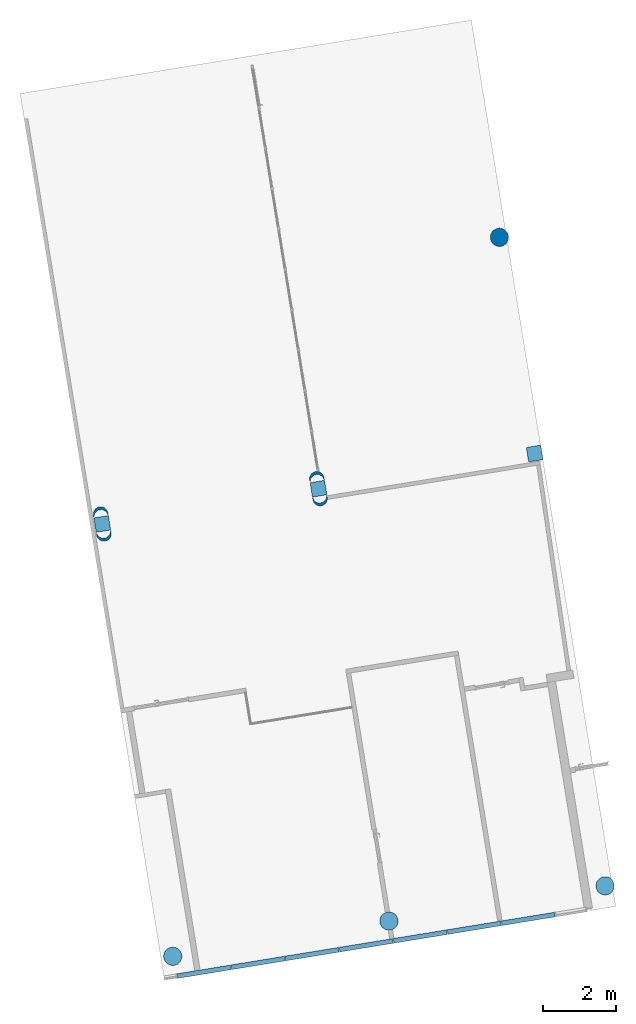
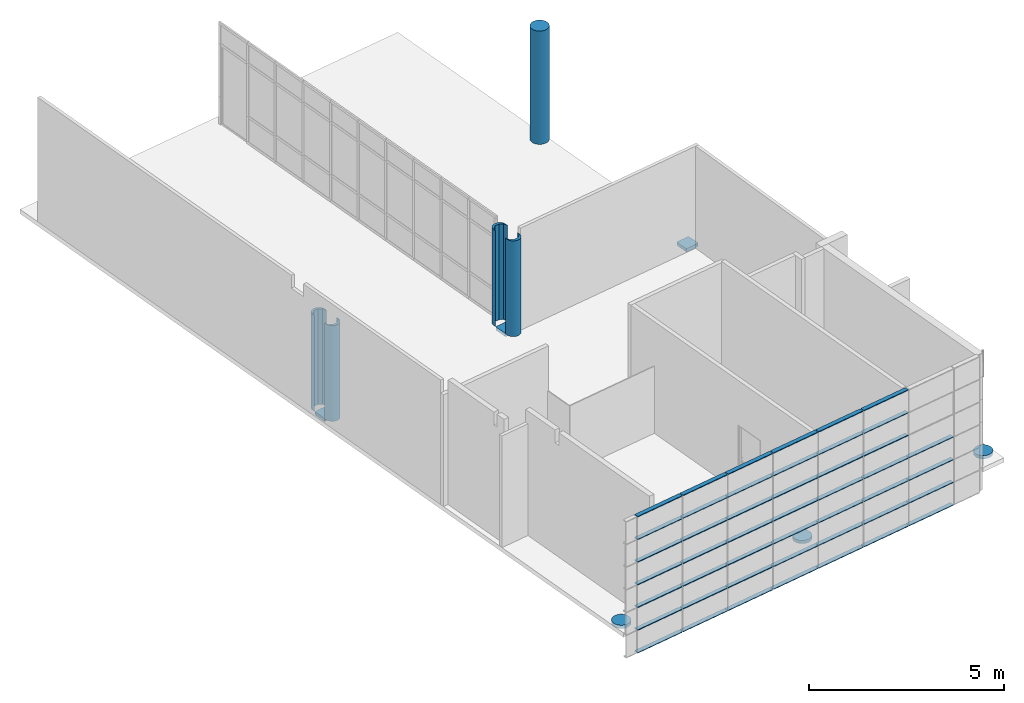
# One storey, part 1 of 18: 46 members, 9 columns, 1 element without a shape of its own.
"""IFC2X3 building model written with IfcOpenShell, lengths in millimetres."""

from ifc_helpers import new_model, entity, si_unit, converted_unit, derived_unit, direction, frame, frame_2d, origin, origin_with_axes, origin_2d_with_axis, place, context, subcontext, project, spatial, polyline, circle_curve, parameter, trimmed, segment, composite_curve, rectangle, circle, outline, extrude, source, transform, mapped, material, type_object, element, aggregate, save


model = new_model("IFC2X3")

# Units and contexts
model_context = context("Model", 3, precision=0.01, world=origin(), true_north=direction((6.12323399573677e-17, 1.0)))
plan_context = context("Plan", 3, precision=1e-05, world=origin_with_axes())
body_context = subcontext(model_context, "Body", "Model", "MODEL_VIEW")
ifc_project = project(units=[converted_unit("PLANEANGLEUNIT", "DEGREE", entity("IfcPositiveLengthMeasure", 0.0174532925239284), si_unit("PLANEANGLEUNIT", "RADIAN"), dimensions=[0, 0, 0, 0, 0, 0, 0]), si_unit("AREAUNIT", "SQUARE_METRE"), si_unit("LENGTHUNIT", "METRE", prefix="MILLI"), si_unit("MASSUNIT", "GRAM", prefix="KILO"), si_unit("POWERUNIT", "WATT"), si_unit("PRESSUREUNIT", "PASCAL", prefix="KILO"), si_unit("FORCEUNIT", "NEWTON", prefix="KILO"), si_unit("ELECTRICVOLTAGEUNIT", "VOLT"), si_unit("ELECTRICCURRENTUNIT", "AMPERE"), si_unit("THERMODYNAMICTEMPERATUREUNIT", "DEGREE_CELSIUS"), si_unit("TIMEUNIT", "SECOND"), si_unit("VOLUMEUNIT", "CUBIC_METRE"), derived_unit("LINEARVELOCITYUNIT", [(si_unit("LENGTHUNIT", "METRE"), 1), (si_unit("TIMEUNIT", "SECOND"), -1)]), derived_unit("VOLUMETRICFLOWRATEUNIT", [(si_unit("VOLUMEUNIT", "CUBIC_METRE"), 1), (si_unit("TIMEUNIT", "SECOND"), -1)]), derived_unit("THERMALTRANSMITTANCEUNIT", [(si_unit("POWERUNIT", "WATT"), 1), (si_unit("THERMODYNAMICTEMPERATUREUNIT", "KELVIN"), -1), (si_unit("AREAUNIT", "SQUARE_METRE"), -1)]), derived_unit("SOUNDPRESSUREUNIT", [(si_unit("PRESSUREUNIT", "PASCAL"), 1)])], contexts=[model_context, plan_context])

# Site, building, storey
site_placement = place(None, frame((-305029.896016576, -232111.759730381, 0.0), z_axis=(0.0, 0.0, 1.0), x_axis=(-0.160806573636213, 0.986985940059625, 0.0)))
site = spatial("IfcSite", under=ifc_project, at=site_placement, Name="Default", CompositionType="ELEMENT")
building_placement = place(site_placement, frame((0.0, 0.0, 0.0), z_axis=(0.0, 0.0, 1.0), x_axis=(1.0, -2.77555756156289e-17, 0.0)))
building = spatial("IfcBuilding", under=site, at=building_placement, Name="br001-a-200-1-0001", CompositionType="ELEMENT")
storey_placement = place(building_placement, frame((0.0, 0.0, 55500.0), z_axis=(0.0, 0.0, 1.0), x_axis=(1.0, -2.77555756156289e-17, 0.0)))
storey = spatial("IfcBuildingStorey", under=building, at=storey_placement, Name="H02-Nivå F-3,5 m", CompositionType="ELEMENT", Elevation=55500.0)

# Columns
ifc_material_1 = material(Name="_NSW Betong")
column_type_1 = type_object("IfcColumnType", Name="NSW Søyle - Betong rund:ø500 mm", PredefinedType="COLUMN", material=ifc_material_1)
shared_shape_1 = source(origin(), body_context, "Body", "SweptSolid", [
    extrude(circle(Radius=249.999999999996, at=frame_2d((4.64188397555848e-14, -3.94377568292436e-13), x_axis=(1.0, 0.0))), frame((0.0, 0.0, 55400.0)), (0.0, 0.0, 1.0), 100.000000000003),
])
for number, where, z_axis, x_axis in (
    (1, (1172678.59858442, -734766.37836702, -55500.0), (0.0, 0.0, 1.0), (1.0, -2.77555756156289e-17, 0.0)),
    (2, (1172678.59858442, -722766.37836702, -55500.0), (0.0, 0.0, 1.0), (1.0, -2.77555756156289e-17, 0.0)),
    (3, (1172678.59858442, -728766.37836702, -55500.0), (0.0, 0.0, 1.0), (1.0, -2.77555756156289e-17, 0.0)),
):
    element("IfcColumn", number, at=place(storey_placement, frame(where, z_axis=z_axis, x_axis=x_axis)), inside=storey, type_object=column_type_1, material=ifc_material_1, Name="NSW Søyle - Betong rund:ø500 mm", ObjectType="NSW Søyle - Betong rund:ø500 mm", context=body_context, shape_type="MappedRepresentation", body=[
        mapped(shared_shape_1, transform((0.0, 0.0, 0.0), scale=1.0)),
    ])
column_type_2 = type_object("IfcColumnType", Name="NSW Søyle - Betong rektangulær:400 x 400 mm", PredefinedType="COLUMN", material=ifc_material_1)
shared_shape_2 = source(origin(), body_context, "Body", "SweptSolid", [
    extrude(outline(polyline([(-7.07106781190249, -275.771644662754), (7.07106781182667, -275.771644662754), (275.771644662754, -7.07106781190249), (275.771644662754, 7.07106781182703), (7.07106781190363, 275.771644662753), (-7.07106781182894, 275.771644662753), (-275.771644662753, 7.07106781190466), (-275.771644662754, -7.07106781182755), (-7.07106781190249, -275.771644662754)])), frame((100.0, -100.0, 55400.0), z_axis=(0.0, 0.0, 1.0), x_axis=(0.707106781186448, 0.707106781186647, 0.0)), (0.0, 0.0, 1.0), 100.000000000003),
])
for number, where, z_axis, x_axis, name in (
    (4, (1184578.59858442, -734666.37836702, -55500.0), (0.0, 0.0, 1.0), (1.0, -2.77555756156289e-17, 0.0), "NSW Søyle - Betong rektangulær:400 x 400 mm"),
    (5, (1184578.59858442, -728666.37836702, -55500.0), (0.0, 0.0, 1.0), (1.0, -2.77555756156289e-17, 0.0), "NSW Søyle - Betong rektangulær:400 x 400 mm"),
    (6, (1184578.59858442, -722666.37836702, -55500.0), (0.0, 0.0, 1.0), (1.0, -2.77555756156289e-17, 0.0), "NSW Søyle - Betong rektangulær:400 x 400 mm"),
):
    element("IfcColumn", number, at=place(storey_placement, frame(where, z_axis=z_axis, x_axis=x_axis)), inside=storey, type_object=column_type_2, material=ifc_material_1, Name=name, ObjectType="NSW Søyle - Betong rektangulær:400 x 400 mm", context=body_context, shape_type="MappedRepresentation", body=[
        mapped(shared_shape_2, transform((0.0, 0.0, 0.0), scale=1.0)),
    ])
column_type_3 = type_object("IfcColumnType", Name="NSW Søyle - Betong rund:ø500 mm", PredefinedType="COLUMN", material=ifc_material_1)
shared_shape_3 = source(origin(), body_context, "Body", "SweptSolid", [
    extrude(circle(Radius=249.999999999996, at=origin_2d_with_axis()), frame((1190678.59858442, -734766.378367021, 55500.0)), (0.0, 0.0, 1.0), 3550.00000000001),
])
column_1_placement = place(storey_placement, frame((0.0, 0.0, -55500.0), z_axis=(0.0, 0.0, 1.0), x_axis=(1.0, -2.77555756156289e-17, 0.0)))
element("IfcColumn", 7, at=column_1_placement, inside=storey, type_object=column_type_3, material=ifc_material_1, Name="NSW Søyle - Betong rund:ø500 mm", ObjectType="NSW Søyle - Betong rund:ø500 mm", context=body_context, shape_type="MappedRepresentation", body=[
    mapped(shared_shape_3, transform((0.0, 0.0, 0.0), scale=1.0)),
])
ifc_material_2 = material(Name="<Unnamed>")
column_type_4 = type_object("IfcColumnType", Name="Columns T10:Columns T2", PredefinedType="COLUMN", material=ifc_material_2)
shared_shape_4 = source(origin(), body_context, "Body", "SweptSolid", [
    extrude(outline(composite_curve([segment(polyline([(-37.5000000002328, -200.0), (37.4999999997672, -200.0)]), True, "CONTINUOUS"), segment(trimmed(circle_curve(frame_2d((37.4999999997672, 0.0), x_axis=(1.0, 0.0)), 200.000000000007), [parameter(270.0)], [parameter(90.0000000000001)], True, "PARAMETER"), True, "CONTINUOUS"), segment(polyline([(37.4999999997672, 200.0), (-37.5000000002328, 200.0)]), True, "CONTINUOUS"), segment(trimmed(circle_curve(frame_2d((-37.5000000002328, 0.0), x_axis=(1.0, 0.0)), 200.000000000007), [parameter(270.0)], [parameter(90.0000000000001)], True, "PARAMETER"), False, "CONTINUOUS")], self_intersect=False)), frame((1184916.09858442, -697765.878367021, 55500.0), z_axis=(0.0, 0.0, -1.0), x_axis=(1.0, 0.0, 0.0)), (0.0, 0.0, -1.0), 3000.0),
    extrude(outline(composite_curve([segment(polyline([(37.5, 200.0), (-37.5, 200.0)]), True, "CONTINUOUS"), segment(trimmed(circle_curve(frame_2d((-37.5, 0.0), x_axis=(1.0, 0.0)), 199.999999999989), [parameter(90.0000000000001)], [parameter(270.0)], True, "PARAMETER"), True, "CONTINUOUS"), segment(polyline([(-37.5, -200.0), (37.5, -200.0)]), True, "CONTINUOUS"), segment(trimmed(circle_curve(frame_2d((37.5, 0.0), x_axis=(1.0, 0.0)), 200.000000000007), [parameter(90.0000000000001)], [parameter(270.0)], True, "PARAMETER"), False, "CONTINUOUS")], self_intersect=False)), frame((1184441.09858442, -697765.878367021, 55500.0), z_axis=(0.0, 0.0, -1.0), x_axis=(1.0, 0.0, 0.0)), (0.0, 0.0, -1.0), 3000.0),
])
column_2_placement = place(storey_placement, frame((0.0, -25000.0000000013, -55500.0), z_axis=(0.0, 0.0, 1.0), x_axis=(1.0, -2.77555756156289e-17, 0.0)))
element("IfcColumn", 8, at=column_2_placement, inside=storey, type_object=column_type_4, material=ifc_material_2, Name="Columns T10:Columns T2", ObjectType="Columns T10:Columns T2", context=body_context, shape_type="MappedRepresentation", body=[
    mapped(shared_shape_4, transform((0.0, 0.0, 0.0), scale=1.0)),
])
column_type_5 = type_object("IfcColumnType", Name="Columns T11:Columns T2", PredefinedType="COLUMN", material=ifc_material_2)
column_3_placement = place(storey_placement, frame((0.0, -30999.9999999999, -55500.0), z_axis=(0.0, 0.0, 1.0), x_axis=(1.0, -2.77555756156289e-17, 0.0)))
element("IfcColumn", 9, at=column_3_placement, inside=storey, type_object=column_type_5, material=ifc_material_2, Name="Columns T11:Columns T2", ObjectType="Columns T11:Columns T2", context=body_context, shape_type="MappedRepresentation", body=[
    mapped(shared_shape_4, transform((0.0, 0.0, 0.0), scale=1.0)),
])

# Curtain wall, members
curtain_wall_type = type_object("IfcCurtainWallType", Name="Curtain Wall:Flesland int curt wall", PredefinedType="NOTDEFINED")
curtain_wall_placement = place(storey_placement, frame((0.0, 0.0, -55500.0), z_axis=(0.0, 0.0, 1.0), x_axis=(1.0, -2.77555756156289e-17, 0.0)))
curtain_wall = element("IfcCurtainWall", 10, at=curtain_wall_placement, inside=storey, type_object=curtain_wall_type, Name="Curtain Wall:Flesland int curt wall", ObjectType="Curtain Wall:Flesland int curt wall")
ifc_material_3 = material(Name="Laminate - Ivory, Matte")
member_type = type_object("IfcMemberType", Name="Rectangular Mullion:Flesland Int 25x125", PredefinedType="MULLION", material=ifc_material_3)
shared_shape_5 = source(origin(), body_context, "Body", "SweptSolid", [
    extrude(rectangle(XDim=25.0, YDim=125.0, at=frame_2d((0.0, 7.105427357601e-15), x_axis=(1.0, 0.0))), frame((0.0, 0.0, -1475.0), z_axis=(0.0, 0.0, 1.0), x_axis=(-1.0, 0.0, 0.0)), (0.0, 0.0, 1.0), 1475.00000000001),
])
member_1_placement = place(curtain_wall_placement, frame((1172125.09858442, -724281.378367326, 54773.5), z_axis=(-2.77555756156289e-17, -1.0, 0.0), x_axis=(0.0, 0.0, 1.0)))
member_1 = element("IfcMember", 11, at=member_1_placement, type_object=member_type, material=ifc_material_3, Name="Rectangular Mullion:Flesland Int 25x125", ObjectType="Rectangular Mullion:Flesland Int 25x125", context=body_context, shape_type="MappedRepresentation", body=[
    mapped(shared_shape_5, transform((0.0, 0.0, 0.0), scale=1.0)),
])
member_2_placement = place(curtain_wall_placement, frame((1172125.09858442, -725781.378367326, 54773.5), z_axis=(-2.77555756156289e-17, -1.0, 0.0), x_axis=(0.0, 0.0, 1.0)))
member_2 = element("IfcMember", 12, at=member_2_placement, type_object=member_type, material=ifc_material_3, Name="Rectangular Mullion:Flesland Int 25x125", ObjectType="Rectangular Mullion:Flesland Int 25x125", context=body_context, shape_type="MappedRepresentation", body=[
    mapped(shared_shape_5, transform((0.0, 0.0, 0.0), scale=1.0)),
])
member_3_placement = place(curtain_wall_placement, frame((1172125.09858442, -727281.378367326, 54773.5), z_axis=(-2.77555756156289e-17, -1.0, 0.0), x_axis=(0.0, 0.0, 1.0)))
member_3 = element("IfcMember", 13, at=member_3_placement, type_object=member_type, material=ifc_material_3, Name="Rectangular Mullion:Flesland Int 25x125", ObjectType="Rectangular Mullion:Flesland Int 25x125", context=body_context, shape_type="MappedRepresentation", body=[
    mapped(shared_shape_5, transform((0.0, 0.0, 0.0), scale=1.0)),
])
member_4_placement = place(curtain_wall_placement, frame((1172125.09858442, -728781.378367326, 54773.5), z_axis=(-2.77555756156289e-17, -1.0, 0.0), x_axis=(0.0, 0.0, 1.0)))
member_4 = element("IfcMember", 14, at=member_4_placement, type_object=member_type, material=ifc_material_3, Name="Rectangular Mullion:Flesland Int 25x125", ObjectType="Rectangular Mullion:Flesland Int 25x125", context=body_context, shape_type="MappedRepresentation", body=[
    mapped(shared_shape_5, transform((0.0, 0.0, 0.0), scale=1.0)),
])
member_5_placement = place(curtain_wall_placement, frame((1172125.09858442, -730281.378367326, 54773.5), z_axis=(-2.77555756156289e-17, -1.0, 0.0), x_axis=(0.0, 0.0, 1.0)))
member_5 = element("IfcMember", 15, at=member_5_placement, type_object=member_type, material=ifc_material_3, Name="Rectangular Mullion:Flesland Int 25x125", ObjectType="Rectangular Mullion:Flesland Int 25x125", context=body_context, shape_type="MappedRepresentation", body=[
    mapped(shared_shape_5, transform((0.0, 0.0, 0.0), scale=1.0)),
])
member_6_placement = place(curtain_wall_placement, frame((1172125.09858442, -731781.378367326, 54773.5), z_axis=(-2.77555756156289e-17, -1.0, 0.0), x_axis=(0.0, 0.0, 1.0)))
member_6 = element("IfcMember", 16, at=member_6_placement, type_object=member_type, material=ifc_material_3, Name="Rectangular Mullion:Flesland Int 25x125", ObjectType="Rectangular Mullion:Flesland Int 25x125", context=body_context, shape_type="MappedRepresentation", body=[
    mapped(shared_shape_5, transform((0.0, 0.0, 0.0), scale=1.0)),
])
member_7_placement = place(curtain_wall_placement, frame((1172125.09858442, -733281.378367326, 54773.5), z_axis=(-2.77555756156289e-17, -1.0, 0.0), x_axis=(0.0, 0.0, 1.0)))
member_7 = element("IfcMember", 17, at=member_7_placement, type_object=member_type, material=ifc_material_3, Name="Rectangular Mullion:Flesland Int 25x125", ObjectType="Rectangular Mullion:Flesland Int 25x125", context=body_context, shape_type="MappedRepresentation", body=[
    mapped(shared_shape_5, transform((0.0, 0.0, 0.0), scale=1.0)),
])
member_8_placement = place(curtain_wall_placement, frame((1172125.09858442, -724281.378367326, 55484.5), z_axis=(-2.77555756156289e-17, -1.0, 0.0), x_axis=(0.0, 0.0, 1.0)))
member_8 = element("IfcMember", 18, at=member_8_placement, type_object=member_type, material=ifc_material_3, Name="Rectangular Mullion:Flesland Int 25x125", ObjectType="Rectangular Mullion:Flesland Int 25x125", context=body_context, shape_type="MappedRepresentation", body=[
    mapped(shared_shape_5, transform((0.0, 0.0, 0.0), scale=1.0)),
])
member_9_placement = place(curtain_wall_placement, frame((1172125.09858442, -725781.378367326, 55484.5), z_axis=(-2.77555756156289e-17, -1.0, 0.0), x_axis=(0.0, 0.0, 1.0)))
member_9 = element("IfcMember", 19, at=member_9_placement, type_object=member_type, material=ifc_material_3, Name="Rectangular Mullion:Flesland Int 25x125", ObjectType="Rectangular Mullion:Flesland Int 25x125", context=body_context, shape_type="MappedRepresentation", body=[
    mapped(shared_shape_5, transform((0.0, 0.0, 0.0), scale=1.0)),
])
member_10_placement = place(curtain_wall_placement, frame((1172125.09858442, -727281.378367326, 55484.5), z_axis=(-2.77555756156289e-17, -1.0, 0.0), x_axis=(0.0, 0.0, 1.0)))
member_10 = element("IfcMember", 20, at=member_10_placement, type_object=member_type, material=ifc_material_3, Name="Rectangular Mullion:Flesland Int 25x125", ObjectType="Rectangular Mullion:Flesland Int 25x125", context=body_context, shape_type="MappedRepresentation", body=[
    mapped(shared_shape_5, transform((0.0, 0.0, 0.0), scale=1.0)),
])
member_11_placement = place(curtain_wall_placement, frame((1172125.09858442, -728781.378367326, 55484.5), z_axis=(-2.77555756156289e-17, -1.0, 0.0), x_axis=(0.0, 0.0, 1.0)))
member_11 = element("IfcMember", 21, at=member_11_placement, type_object=member_type, material=ifc_material_3, Name="Rectangular Mullion:Flesland Int 25x125", ObjectType="Rectangular Mullion:Flesland Int 25x125", context=body_context, shape_type="MappedRepresentation", body=[
    mapped(shared_shape_5, transform((0.0, 0.0, 0.0), scale=1.0)),
])
member_12_placement = place(curtain_wall_placement, frame((1172125.09858442, -730281.378367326, 55484.5), z_axis=(-2.77555756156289e-17, -1.0, 0.0), x_axis=(0.0, 0.0, 1.0)))
member_12 = element("IfcMember", 22, at=member_12_placement, type_object=member_type, material=ifc_material_3, Name="Rectangular Mullion:Flesland Int 25x125", ObjectType="Rectangular Mullion:Flesland Int 25x125", context=body_context, shape_type="MappedRepresentation", body=[
    mapped(shared_shape_5, transform((0.0, 0.0, 0.0), scale=1.0)),
])
member_13_placement = place(curtain_wall_placement, frame((1172125.09858442, -731781.378367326, 55484.5), z_axis=(-2.77555756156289e-17, -1.0, 0.0), x_axis=(0.0, 0.0, 1.0)))
member_13 = element("IfcMember", 23, at=member_13_placement, type_object=member_type, material=ifc_material_3, Name="Rectangular Mullion:Flesland Int 25x125", ObjectType="Rectangular Mullion:Flesland Int 25x125", context=body_context, shape_type="MappedRepresentation", body=[
    mapped(shared_shape_5, transform((0.0, 0.0, 0.0), scale=1.0)),
])
member_14_placement = place(curtain_wall_placement, frame((1172125.09858442, -733281.378367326, 55484.5), z_axis=(-2.77555756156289e-17, -1.0, 0.0), x_axis=(0.0, 0.0, 1.0)))
member_14 = element("IfcMember", 24, at=member_14_placement, type_object=member_type, material=ifc_material_3, Name="Rectangular Mullion:Flesland Int 25x125", ObjectType="Rectangular Mullion:Flesland Int 25x125", context=body_context, shape_type="MappedRepresentation", body=[
    mapped(shared_shape_5, transform((0.0, 0.0, 0.0), scale=1.0)),
])
member_15_placement = place(curtain_wall_placement, frame((1172125.09858442, -724281.378367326, 56195.5), z_axis=(-2.77555756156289e-17, -1.0, 0.0), x_axis=(0.0, 0.0, 1.0)))
member_15 = element("IfcMember", 25, at=member_15_placement, type_object=member_type, material=ifc_material_3, Name="Rectangular Mullion:Flesland Int 25x125", ObjectType="Rectangular Mullion:Flesland Int 25x125", context=body_context, shape_type="MappedRepresentation", body=[
    mapped(shared_shape_5, transform((0.0, 0.0, 0.0), scale=1.0)),
])
member_16_placement = place(curtain_wall_placement, frame((1172125.09858442, -725781.378367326, 56195.5), z_axis=(-2.77555756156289e-17, -1.0, 0.0), x_axis=(0.0, 0.0, 1.0)))
member_16 = element("IfcMember", 26, at=member_16_placement, type_object=member_type, material=ifc_material_3, Name="Rectangular Mullion:Flesland Int 25x125", ObjectType="Rectangular Mullion:Flesland Int 25x125", context=body_context, shape_type="MappedRepresentation", body=[
    mapped(shared_shape_5, transform((0.0, 0.0, 0.0), scale=1.0)),
])
member_17_placement = place(curtain_wall_placement, frame((1172125.09858442, -727281.378367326, 56195.5), z_axis=(-2.77555756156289e-17, -1.0, 0.0), x_axis=(0.0, 0.0, 1.0)))
member_17 = element("IfcMember", 27, at=member_17_placement, type_object=member_type, material=ifc_material_3, Name="Rectangular Mullion:Flesland Int 25x125", ObjectType="Rectangular Mullion:Flesland Int 25x125", context=body_context, shape_type="MappedRepresentation", body=[
    mapped(shared_shape_5, transform((0.0, 0.0, 0.0), scale=1.0)),
])
member_18_placement = place(curtain_wall_placement, frame((1172125.09858442, -728781.378367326, 56195.5), z_axis=(-2.77555756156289e-17, -1.0, 0.0), x_axis=(0.0, 0.0, 1.0)))
member_18 = element("IfcMember", 28, at=member_18_placement, type_object=member_type, material=ifc_material_3, Name="Rectangular Mullion:Flesland Int 25x125", ObjectType="Rectangular Mullion:Flesland Int 25x125", context=body_context, shape_type="MappedRepresentation", body=[
    mapped(shared_shape_5, transform((0.0, 0.0, 0.0), scale=1.0)),
])
member_19_placement = place(curtain_wall_placement, frame((1172125.09858442, -730281.378367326, 56195.5), z_axis=(-2.77555756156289e-17, -1.0, 0.0), x_axis=(0.0, 0.0, 1.0)))
member_19 = element("IfcMember", 29, at=member_19_placement, type_object=member_type, material=ifc_material_3, Name="Rectangular Mullion:Flesland Int 25x125", ObjectType="Rectangular Mullion:Flesland Int 25x125", context=body_context, shape_type="MappedRepresentation", body=[
    mapped(shared_shape_5, transform((0.0, 0.0, 0.0), scale=1.0)),
])
member_20_placement = place(curtain_wall_placement, frame((1172125.09858442, -731781.378367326, 56195.5), z_axis=(-2.77555756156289e-17, -1.0, 0.0), x_axis=(0.0, 0.0, 1.0)))
member_20 = element("IfcMember", 30, at=member_20_placement, type_object=member_type, material=ifc_material_3, Name="Rectangular Mullion:Flesland Int 25x125", ObjectType="Rectangular Mullion:Flesland Int 25x125", context=body_context, shape_type="MappedRepresentation", body=[
    mapped(shared_shape_5, transform((0.0, 0.0, 0.0), scale=1.0)),
])
member_21_placement = place(curtain_wall_placement, frame((1172125.09858442, -733281.378367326, 56195.5), z_axis=(-2.77555756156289e-17, -1.0, 0.0), x_axis=(0.0, 0.0, 1.0)))
member_21 = element("IfcMember", 31, at=member_21_placement, type_object=member_type, material=ifc_material_3, Name="Rectangular Mullion:Flesland Int 25x125", ObjectType="Rectangular Mullion:Flesland Int 25x125", context=body_context, shape_type="MappedRepresentation", body=[
    mapped(shared_shape_5, transform((0.0, 0.0, 0.0), scale=1.0)),
])
member_22_placement = place(curtain_wall_placement, frame((1172125.09858442, -724281.378367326, 56906.5), z_axis=(-2.77555756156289e-17, -1.0, 0.0), x_axis=(0.0, 0.0, 1.0)))
member_22 = element("IfcMember", 32, at=member_22_placement, type_object=member_type, material=ifc_material_3, Name="Rectangular Mullion:Flesland Int 25x125", ObjectType="Rectangular Mullion:Flesland Int 25x125", context=body_context, shape_type="MappedRepresentation", body=[
    mapped(shared_shape_5, transform((0.0, 0.0, 0.0), scale=1.0)),
])
member_23_placement = place(curtain_wall_placement, frame((1172125.09858442, -725781.378367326, 56906.5), z_axis=(-2.77555756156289e-17, -1.0, 0.0), x_axis=(0.0, 0.0, 1.0)))
member_23 = element("IfcMember", 33, at=member_23_placement, type_object=member_type, material=ifc_material_3, Name="Rectangular Mullion:Flesland Int 25x125", ObjectType="Rectangular Mullion:Flesland Int 25x125", context=body_context, shape_type="MappedRepresentation", body=[
    mapped(shared_shape_5, transform((0.0, 0.0, 0.0), scale=1.0)),
])
member_24_placement = place(curtain_wall_placement, frame((1172125.09858442, -727281.378367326, 56906.5), z_axis=(-2.77555756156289e-17, -1.0, 0.0), x_axis=(0.0, 0.0, 1.0)))
member_24 = element("IfcMember", 34, at=member_24_placement, type_object=member_type, material=ifc_material_3, Name="Rectangular Mullion:Flesland Int 25x125", ObjectType="Rectangular Mullion:Flesland Int 25x125", context=body_context, shape_type="MappedRepresentation", body=[
    mapped(shared_shape_5, transform((0.0, 0.0, 0.0), scale=1.0)),
])
member_25_placement = place(curtain_wall_placement, frame((1172125.09858442, -728781.378367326, 56906.5), z_axis=(-2.77555756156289e-17, -1.0, 0.0), x_axis=(0.0, 0.0, 1.0)))
member_25 = element("IfcMember", 35, at=member_25_placement, type_object=member_type, material=ifc_material_3, Name="Rectangular Mullion:Flesland Int 25x125", ObjectType="Rectangular Mullion:Flesland Int 25x125", context=body_context, shape_type="MappedRepresentation", body=[
    mapped(shared_shape_5, transform((0.0, 0.0, 0.0), scale=1.0)),
])
member_26_placement = place(curtain_wall_placement, frame((1172125.09858442, -730281.378367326, 56906.5), z_axis=(-2.77555756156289e-17, -1.0, 0.0), x_axis=(0.0, 0.0, 1.0)))
member_26 = element("IfcMember", 36, at=member_26_placement, type_object=member_type, material=ifc_material_3, Name="Rectangular Mullion:Flesland Int 25x125", ObjectType="Rectangular Mullion:Flesland Int 25x125", context=body_context, shape_type="MappedRepresentation", body=[
    mapped(shared_shape_5, transform((0.0, 0.0, 0.0), scale=1.0)),
])
member_27_placement = place(curtain_wall_placement, frame((1172125.09858442, -731781.378367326, 56906.5), z_axis=(-2.77555756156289e-17, -1.0, 0.0), x_axis=(0.0, 0.0, 1.0)))
member_27 = element("IfcMember", 37, at=member_27_placement, type_object=member_type, material=ifc_material_3, Name="Rectangular Mullion:Flesland Int 25x125", ObjectType="Rectangular Mullion:Flesland Int 25x125", context=body_context, shape_type="MappedRepresentation", body=[
    mapped(shared_shape_5, transform((0.0, 0.0, 0.0), scale=1.0)),
])
member_28_placement = place(curtain_wall_placement, frame((1172125.09858442, -733281.378367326, 56906.5), z_axis=(-2.77555756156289e-17, -1.0, 0.0), x_axis=(0.0, 0.0, 1.0)))
member_28 = element("IfcMember", 38, at=member_28_placement, type_object=member_type, material=ifc_material_3, Name="Rectangular Mullion:Flesland Int 25x125", ObjectType="Rectangular Mullion:Flesland Int 25x125", context=body_context, shape_type="MappedRepresentation", body=[
    mapped(shared_shape_5, transform((0.0, 0.0, 0.0), scale=1.0)),
])
member_29_placement = place(curtain_wall_placement, frame((1172125.09858442, -724281.378367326, 57617.5), z_axis=(-2.77555756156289e-17, -1.0, 0.0), x_axis=(0.0, 0.0, 1.0)))
member_29 = element("IfcMember", 39, at=member_29_placement, type_object=member_type, material=ifc_material_3, Name="Rectangular Mullion:Flesland Int 25x125", ObjectType="Rectangular Mullion:Flesland Int 25x125", context=body_context, shape_type="MappedRepresentation", body=[
    mapped(shared_shape_5, transform((0.0, 0.0, 0.0), scale=1.0)),
])
member_30_placement = place(curtain_wall_placement, frame((1172125.09858442, -725781.378367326, 57617.5), z_axis=(-2.77555756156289e-17, -1.0, 0.0), x_axis=(0.0, 0.0, 1.0)))
member_30 = element("IfcMember", 40, at=member_30_placement, type_object=member_type, material=ifc_material_3, Name="Rectangular Mullion:Flesland Int 25x125", ObjectType="Rectangular Mullion:Flesland Int 25x125", context=body_context, shape_type="MappedRepresentation", body=[
    mapped(shared_shape_5, transform((0.0, 0.0, 0.0), scale=1.0)),
])
member_31_placement = place(curtain_wall_placement, frame((1172125.09858442, -727281.378367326, 57617.5), z_axis=(-2.77555756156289e-17, -1.0, 0.0), x_axis=(0.0, 0.0, 1.0)))
member_31 = element("IfcMember", 41, at=member_31_placement, type_object=member_type, material=ifc_material_3, Name="Rectangular Mullion:Flesland Int 25x125", ObjectType="Rectangular Mullion:Flesland Int 25x125", context=body_context, shape_type="MappedRepresentation", body=[
    mapped(shared_shape_5, transform((0.0, 0.0, 0.0), scale=1.0)),
])
member_32_placement = place(curtain_wall_placement, frame((1172125.09858442, -728781.378367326, 57617.5), z_axis=(-2.77555756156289e-17, -1.0, 0.0), x_axis=(0.0, 0.0, 1.0)))
member_32 = element("IfcMember", 42, at=member_32_placement, type_object=member_type, material=ifc_material_3, Name="Rectangular Mullion:Flesland Int 25x125", ObjectType="Rectangular Mullion:Flesland Int 25x125", context=body_context, shape_type="MappedRepresentation", body=[
    mapped(shared_shape_5, transform((0.0, 0.0, 0.0), scale=1.0)),
])
member_33_placement = place(curtain_wall_placement, frame((1172125.09858442, -730281.378367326, 57617.5), z_axis=(-2.77555756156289e-17, -1.0, 0.0), x_axis=(0.0, 0.0, 1.0)))
member_33 = element("IfcMember", 43, at=member_33_placement, type_object=member_type, material=ifc_material_3, Name="Rectangular Mullion:Flesland Int 25x125", ObjectType="Rectangular Mullion:Flesland Int 25x125", context=body_context, shape_type="MappedRepresentation", body=[
    mapped(shared_shape_5, transform((0.0, 0.0, 0.0), scale=1.0)),
])
member_34_placement = place(curtain_wall_placement, frame((1172125.09858442, -731781.378367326, 57617.5), z_axis=(-2.77555756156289e-17, -1.0, 0.0), x_axis=(0.0, 0.0, 1.0)))
member_34 = element("IfcMember", 44, at=member_34_placement, type_object=member_type, material=ifc_material_3, Name="Rectangular Mullion:Flesland Int 25x125", ObjectType="Rectangular Mullion:Flesland Int 25x125", context=body_context, shape_type="MappedRepresentation", body=[
    mapped(shared_shape_5, transform((0.0, 0.0, 0.0), scale=1.0)),
])
member_35_placement = place(curtain_wall_placement, frame((1172125.09858442, -724281.378367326, 58328.5), z_axis=(-2.77555756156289e-17, -1.0, 0.0), x_axis=(0.0, 0.0, 1.0)))
member_35 = element("IfcMember", 45, at=member_35_placement, type_object=member_type, material=ifc_material_3, Name="Rectangular Mullion:Flesland Int 25x125", ObjectType="Rectangular Mullion:Flesland Int 25x125", context=body_context, shape_type="MappedRepresentation", body=[
    mapped(shared_shape_5, transform((0.0, 0.0, 0.0), scale=1.0)),
])
member_36_placement = place(curtain_wall_placement, frame((1172125.09858442, -725781.378367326, 58328.5), z_axis=(-2.77555756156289e-17, -1.0, 0.0), x_axis=(0.0, 0.0, 1.0)))
member_36 = element("IfcMember", 46, at=member_36_placement, type_object=member_type, material=ifc_material_3, Name="Rectangular Mullion:Flesland Int 25x125", ObjectType="Rectangular Mullion:Flesland Int 25x125", context=body_context, shape_type="MappedRepresentation", body=[
    mapped(shared_shape_5, transform((0.0, 0.0, 0.0), scale=1.0)),
])
member_37_placement = place(curtain_wall_placement, frame((1172125.09858442, -727281.378367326, 58328.5), z_axis=(-2.77555756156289e-17, -1.0, 0.0), x_axis=(0.0, 0.0, 1.0)))
member_37 = element("IfcMember", 47, at=member_37_placement, type_object=member_type, material=ifc_material_3, Name="Rectangular Mullion:Flesland Int 25x125", ObjectType="Rectangular Mullion:Flesland Int 25x125", context=body_context, shape_type="MappedRepresentation", body=[
    mapped(shared_shape_5, transform((0.0, 0.0, 0.0), scale=1.0)),
])
member_38_placement = place(curtain_wall_placement, frame((1172125.09858442, -728781.378367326, 58328.5), z_axis=(-2.77555756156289e-17, -1.0, 0.0), x_axis=(0.0, 0.0, 1.0)))
member_38 = element("IfcMember", 48, at=member_38_placement, type_object=member_type, material=ifc_material_3, Name="Rectangular Mullion:Flesland Int 25x125", ObjectType="Rectangular Mullion:Flesland Int 25x125", context=body_context, shape_type="MappedRepresentation", body=[
    mapped(shared_shape_5, transform((0.0, 0.0, 0.0), scale=1.0)),
])
member_39_placement = place(curtain_wall_placement, frame((1172125.09858442, -730281.378367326, 58328.5), z_axis=(-2.77555756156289e-17, -1.0, 0.0), x_axis=(0.0, 0.0, 1.0)))
member_39 = element("IfcMember", 49, at=member_39_placement, type_object=member_type, material=ifc_material_3, Name="Rectangular Mullion:Flesland Int 25x125", ObjectType="Rectangular Mullion:Flesland Int 25x125", context=body_context, shape_type="MappedRepresentation", body=[
    mapped(shared_shape_5, transform((0.0, 0.0, 0.0), scale=1.0)),
])
member_40_placement = place(curtain_wall_placement, frame((1172125.09858442, -731781.378367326, 58328.5), z_axis=(-2.77555756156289e-17, -1.0, 0.0), x_axis=(0.0, 0.0, 1.0)))
member_40 = element("IfcMember", 50, at=member_40_placement, type_object=member_type, material=ifc_material_3, Name="Rectangular Mullion:Flesland Int 25x125", ObjectType="Rectangular Mullion:Flesland Int 25x125", context=body_context, shape_type="MappedRepresentation", body=[
    mapped(shared_shape_5, transform((0.0, 0.0, 0.0), scale=1.0)),
])
member_41_placement = place(curtain_wall_placement, frame((1172125.09858442, -724281.378367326, 59039.5), z_axis=(-2.77555756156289e-17, -1.0, 0.0), x_axis=(0.0, 0.0, 1.0)))
member_41 = element("IfcMember", 51, at=member_41_placement, type_object=member_type, material=ifc_material_3, Name="Rectangular Mullion:Flesland Int 25x125", ObjectType="Rectangular Mullion:Flesland Int 25x125", context=body_context, shape_type="MappedRepresentation", body=[
    mapped(shared_shape_5, transform((0.0, 0.0, 0.0), scale=1.0)),
])
member_42_placement = place(curtain_wall_placement, frame((1172125.09858442, -725781.378367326, 59039.5), z_axis=(-2.77555756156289e-17, -1.0, 0.0), x_axis=(0.0, 0.0, 1.0)))
member_42 = element("IfcMember", 52, at=member_42_placement, type_object=member_type, material=ifc_material_3, Name="Rectangular Mullion:Flesland Int 25x125", ObjectType="Rectangular Mullion:Flesland Int 25x125", context=body_context, shape_type="MappedRepresentation", body=[
    mapped(shared_shape_5, transform((0.0, 0.0, 0.0), scale=1.0)),
])
member_43_placement = place(curtain_wall_placement, frame((1172125.09858442, -727281.378367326, 59039.5), z_axis=(-2.77555756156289e-17, -1.0, 0.0), x_axis=(0.0, 0.0, 1.0)))
member_43 = element("IfcMember", 53, at=member_43_placement, type_object=member_type, material=ifc_material_3, Name="Rectangular Mullion:Flesland Int 25x125", ObjectType="Rectangular Mullion:Flesland Int 25x125", context=body_context, shape_type="MappedRepresentation", body=[
    mapped(shared_shape_5, transform((0.0, 0.0, 0.0), scale=1.0)),
])
member_44_placement = place(curtain_wall_placement, frame((1172125.09858442, -728781.378367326, 59039.5), z_axis=(-2.77555756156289e-17, -1.0, 0.0), x_axis=(0.0, 0.0, 1.0)))
member_44 = element("IfcMember", 54, at=member_44_placement, type_object=member_type, material=ifc_material_3, Name="Rectangular Mullion:Flesland Int 25x125", ObjectType="Rectangular Mullion:Flesland Int 25x125", context=body_context, shape_type="MappedRepresentation", body=[
    mapped(shared_shape_5, transform((0.0, 0.0, 0.0), scale=1.0)),
])
member_45_placement = place(curtain_wall_placement, frame((1172125.09858442, -730281.378367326, 59039.5), z_axis=(-2.77555756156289e-17, -1.0, 0.0), x_axis=(0.0, 0.0, 1.0)))
member_45 = element("IfcMember", 55, at=member_45_placement, type_object=member_type, material=ifc_material_3, Name="Rectangular Mullion:Flesland Int 25x125", ObjectType="Rectangular Mullion:Flesland Int 25x125", context=body_context, shape_type="MappedRepresentation", body=[
    mapped(shared_shape_5, transform((0.0, 0.0, 0.0), scale=1.0)),
])
member_46_placement = place(curtain_wall_placement, frame((1172125.09858442, -731781.378367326, 59039.5), z_axis=(-2.77555756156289e-17, -1.0, 0.0), x_axis=(0.0, 0.0, 1.0)))
member_46 = element("IfcMember", 56, at=member_46_placement, type_object=member_type, material=ifc_material_3, Name="Rectangular Mullion:Flesland Int 25x125", ObjectType="Rectangular Mullion:Flesland Int 25x125", context=body_context, shape_type="MappedRepresentation", body=[
    mapped(shared_shape_5, transform((0.0, 0.0, 0.0), scale=1.0)),
])
aggregate(curtain_wall, [member_1, member_2, member_3, member_4, member_5, member_6, member_7, member_8, member_9, member_10, member_11, member_12, member_13, member_14, member_15, member_16, member_17, member_18, member_19, member_20, member_21, member_22, member_23, member_24, member_25, member_26, member_27, member_28, member_29, member_30, member_31, member_32, member_33, member_34, member_35, member_36, member_37, member_38, member_39, member_40, member_41, member_42, member_43, member_44, member_45, member_46])

save(model, "model.ifc")
